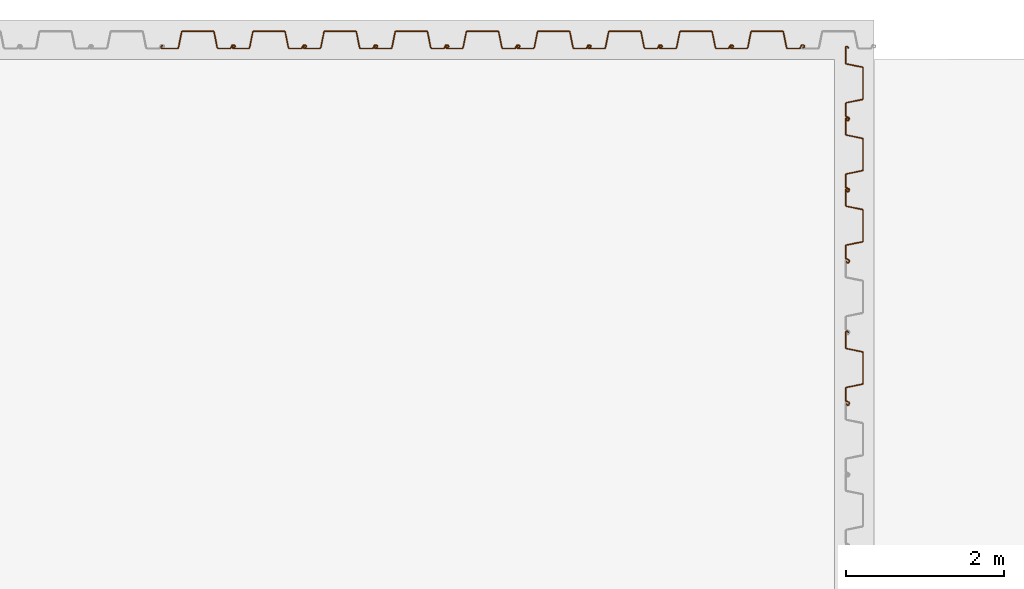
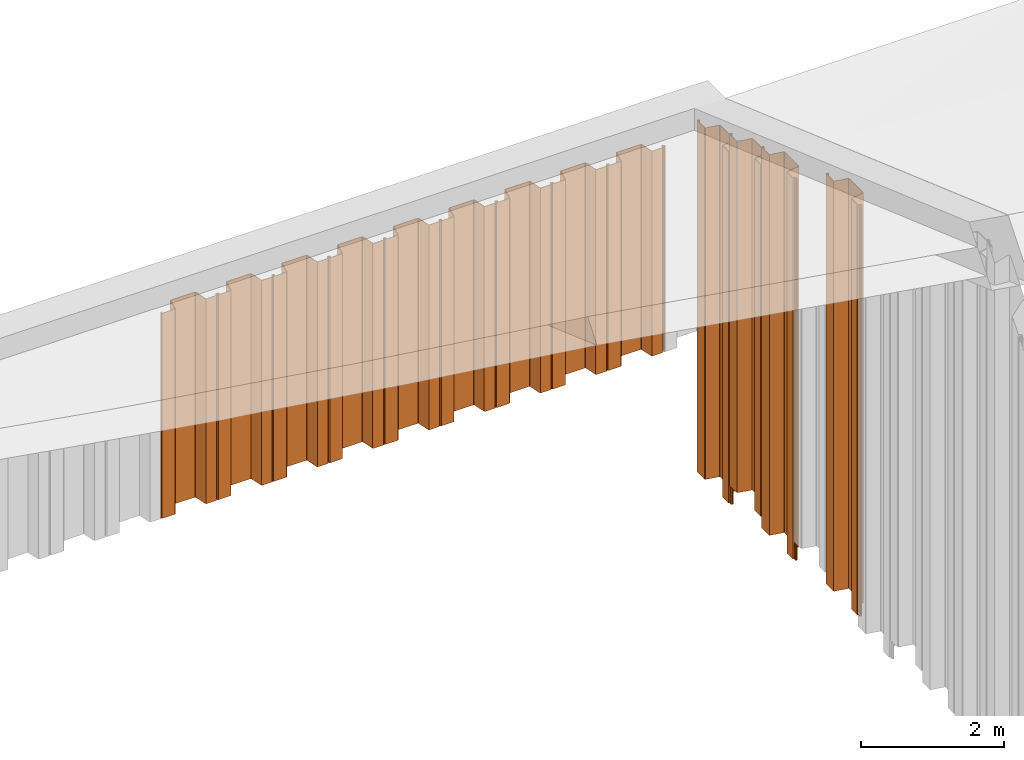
# One storey, part 31 of 32: 13 proxies.
"""IFC2X3 building model written with IfcOpenShell, lengths in millimetres."""

import ifcopenshell
import ifcopenshell.guid

model = None  # the IFC model being written
_history = None  # IfcOwnerHistory: only IFC2X3 demands one
_inside = {}  # id of a spatial element -> (the spatial element, [elements in it])
_under = {}  # id of a project, library or spatial element -> (it, [spatial elements below it])
_declared = {}  # id of a project -> (the project, [libraries it declares])
_typed = {}  # id of a type object -> (the type object, [elements of that type])
_made_of = {}  # id of a material, layer set ... -> (it, [elements and type objects made of it])


def new_model(schema):
    """Start an empty IFC model of exactly this schema.

    Asked for "IFC4X3", IfcOpenShell would pick the latest addendum, in which some entities
    have other attributes; the version numbers below select the first issue.
    IFC2X3 requires an IfcOwnerHistory on every rooted entity: one is made here for all.
    """
    global model, _history
    if schema == "IFC4X3":
        model = ifcopenshell.file(schema_version=(4, 3, 0, 0))
    else:
        model = ifcopenshell.file(schema=schema)
    _inside.clear()
    _under.clear()
    _declared.clear()
    _typed.clear()
    _made_of.clear()
    _history = None
    if model.schema == "IFC2X3":
        org = make("IfcOrganization", Name="unknown")
        user = make(
            "IfcPersonAndOrganization",
            ThePerson=make("IfcPerson", FamilyName="unknown"),
            TheOrganization=org,
        )
        app = make(
            "IfcApplication",
            ApplicationDeveloper=org,
            Version="unknown",
            ApplicationFullName="unknown",
            ApplicationIdentifier="unknown",
        )
        _history = make(
            "IfcOwnerHistory",
            OwningUser=user,
            OwningApplication=app,
            ChangeAction="ADDED",
            CreationDate=0,
        )
    return model


def make(cls, **values):
    """One entity of the class cls with the attributes given. An attribute that is None is left unset."""
    return model.create_entity(
        cls, **{name: value for name, value in values.items() if value is not None}
    )


def entity(cls, *values):
    """Any entity or typed value of the class cls, its attributes in the order of the schema. None: left unset."""
    e = model.create_entity(cls)
    for i, value in enumerate(values):
        if value is not None:
            e[i] = value
    return e


def rooted(cls, **values):
    """An entity with a GlobalId (a new one), such as an element, a storey or a relation."""
    return make(cls, GlobalId=ifcopenshell.guid.new(), OwnerHistory=_history, **values)


def si_unit(unit_type, name, prefix=None):
    """IfcSIUnit, for example si_unit("LENGTHUNIT", "METRE", prefix="MILLI")."""
    return make("IfcSIUnit", UnitType=unit_type, Prefix=prefix, Name=name)


def converted_unit(unit_type, name, factor, base, dimensions=None, offset=None):
    """IfcConversionBasedUnit, such as the inch: factor (a typed value) times the base unit."""
    return make(
        "IfcConversionBasedUnit"
        if offset is None
        else "IfcConversionBasedUnitWithOffset",
        ConversionOffset=offset,
        Dimensions=None
        if dimensions is None
        else entity("IfcDimensionalExponents", *dimensions),
        UnitType=unit_type,
        Name=name,
        ConversionFactor=make(
            "IfcMeasureWithUnit", ValueComponent=factor, UnitComponent=base
        ),
    )


def derived_unit(unit_type, elements):
    """IfcDerivedUnit: a product of units, each with its exponent."""
    return make(
        "IfcDerivedUnit",
        Elements=[
            make("IfcDerivedUnitElement", Unit=unit, Exponent=power)
            for unit, power in elements
        ],
        UnitType=unit_type,
    )


def assignment(units):
    """IfcUnitAssignment: the units of a project."""
    return None if units is None else make("IfcUnitAssignment", Units=units)


def point(xyz):
    """IfcCartesianPoint."""
    return None if xyz is None else make("IfcCartesianPoint", Coordinates=xyz)


def direction(xyz):
    """IfcDirection."""
    return None if xyz is None else make("IfcDirection", DirectionRatios=xyz)


def frame(location, z_axis=None, x_axis=None):
    """IfcAxis2Placement3D, a coordinate frame: its origin and axes. An axis left out is left unset."""
    return make(
        "IfcAxis2Placement3D",
        Location=point(location),
        Axis=direction(z_axis),
        RefDirection=direction(x_axis),
    )


def frame_2d(location, x_axis=None):
    """IfcAxis2Placement2D, a coordinate frame in the plane: its origin and x axis."""
    return make(
        "IfcAxis2Placement2D", Location=point(location), RefDirection=direction(x_axis)
    )


def origin():
    """The frame at (0, 0, 0) with its axes left unset."""
    return frame((0.0, 0.0, 0.0))


def place(relative_to, where):
    """IfcLocalPlacement: puts the frame where relative to a parent placement (None: the world)."""
    return make(
        "IfcLocalPlacement", PlacementRelTo=relative_to, RelativePlacement=where
    )


def context(
    kind, dimensions, precision=None, world=None, true_north=None, identifier=None
):
    """IfcGeometricRepresentationContext, for example the 3D "Model" context."""
    return make(
        "IfcGeometricRepresentationContext",
        ContextIdentifier=identifier,
        ContextType=kind,
        CoordinateSpaceDimension=dimensions,
        Precision=precision,
        WorldCoordinateSystem=world,
        TrueNorth=true_north,
    )


def subcontext(parent, identifier, kind, view, scale=None):
    """IfcGeometricRepresentationSubContext, for example "Body" below "Model"."""
    return make(
        "IfcGeometricRepresentationSubContext",
        ContextIdentifier=identifier,
        ContextType=kind,
        ParentContext=parent,
        TargetScale=scale,
        TargetView=view,
    )


def project(units=None, contexts=None):
    """IfcProject with its units and contexts."""
    return rooted(
        "IfcProject",
        Name="project",
        RepresentationContexts=contexts,
        UnitsInContext=assignment(units),
    )


def spatial(cls, under=None, at=None, **own):
    """A site, building, storey or space (cls), placed at a placement, below another one or the project."""
    s = rooted(cls, ObjectPlacement=at, **own)
    if under is not None:
        _under.setdefault(under.id(), (under, []))[1].append(s)
    return s


def polyline(points):
    """IfcPolyline through the points."""
    return make("IfcPolyline", Points=[point(p) for p in points])


def circle_curve(where, radius):
    """IfcCircle in the frame where."""
    return make("IfcCircle", Position=where, Radius=radius)


def parameter(value):
    """IfcParameterValue: where a trimmed curve begins or ends, as a parameter of its basis curve."""
    return model.create_entity("IfcParameterValue", value)


def trimmed(basis, trim1, trim2, sense, master):
    """IfcTrimmedCurve: the piece of a basis curve between two trims."""
    return make(
        "IfcTrimmedCurve",
        BasisCurve=basis,
        Trim1=trim1,
        Trim2=trim2,
        SenseAgreement=sense,
        MasterRepresentation=master,
    )


def segment(curve, same_sense, transition):
    """IfcCompositeCurveSegment."""
    return make(
        "IfcCompositeCurveSegment",
        Transition=transition,
        SameSense=same_sense,
        ParentCurve=curve,
    )


def composite_curve(segments, self_intersect=None):
    """IfcCompositeCurve: segments joined end to end."""
    return make("IfcCompositeCurve", Segments=segments, SelfIntersect=self_intersect)


def outline(outer, holes=None, kind="AREA"):
    """IfcArbitraryClosedProfileDef: a profile drawn as a closed curve; with holes, ...WithVoids."""
    if holes is None:
        return make("IfcArbitraryClosedProfileDef", ProfileType=kind, OuterCurve=outer)
    return make(
        "IfcArbitraryProfileDefWithVoids",
        ProfileType=kind,
        OuterCurve=outer,
        InnerCurves=holes,
    )


def extrude(swept, where, along, depth):
    """IfcExtrudedAreaSolid: the profile swept, set in the frame where, extruded along a direction by depth."""
    return make(
        "IfcExtrudedAreaSolid",
        SweptArea=swept,
        Position=where,
        ExtrudedDirection=direction(along),
        Depth=depth,
    )


def shape(context_of_items, identifier, shape_type, items):
    """IfcShapeRepresentation: the items that make up one representation, for example the "Body"."""
    return make(
        "IfcShapeRepresentation",
        ContextOfItems=context_of_items,
        RepresentationIdentifier=identifier,
        RepresentationType=shape_type,
        Items=items,
    )


def source(mapping_origin, context_of_items, identifier, shape_type, items):
    """IfcRepresentationMap: a shape defined once, which mapped items show again and again."""
    return make(
        "IfcRepresentationMap",
        MappingOrigin=mapping_origin,
        MappedRepresentation=shape(context_of_items, identifier, shape_type, items),
    )


def transform(
    local_origin,
    x_axis=None,
    y_axis=None,
    z_axis=None,
    scale=None,
    scale2=None,
    scale3=None,
    uniform=True,
):
    """IfcCartesianTransformationOperator3D, or its non-uniform kind. x_axis, y_axis, z_axis: its Axis1, 2, 3."""
    if uniform:
        return make(
            "IfcCartesianTransformationOperator3D",
            Axis1=direction(x_axis),
            Axis2=direction(y_axis),
            LocalOrigin=point(local_origin),
            Scale=scale,
            Axis3=direction(z_axis),
        )
    return make(
        "IfcCartesianTransformationOperator3DnonUniform",
        Axis1=direction(x_axis),
        Axis2=direction(y_axis),
        LocalOrigin=point(local_origin),
        Scale=scale,
        Axis3=direction(z_axis),
        Scale2=scale2,
        Scale3=scale3,
    )


def mapped(mapping_source, mapping_target):
    """IfcMappedItem: shows the shape of a source again, moved by a transform."""
    return make(
        "IfcMappedItem", MappingSource=mapping_source, MappingTarget=mapping_target
    )


def made_of(thing, what):
    """Note that an element or type object is made of a material, layer set ...; save() writes the relation."""
    if what is not None:
        _made_of.setdefault(what.id(), (what, []))[1].append(thing)
    return thing


def type_object(cls, material=None, **own):
    """A type object (cls), such as IfcWallType, which elements share."""
    return made_of(rooted(cls, **own), material)


def type_shapes(of_type, sources):
    """Give a type object the sources (RepresentationMaps) that its elements show as mapped items."""
    of_type.RepresentationMaps = sources


def element(
    cls,
    number,
    at=None,
    inside=None,
    cuts=None,
    type_object=None,
    material=None,
    context=None,
    identifier="Body",
    shape_type=None,
    held_by="IfcProductDefinitionShape",
    body=None,
    shapes=None,
    **own,
):
    """One element of the class cls, such as IfcWall. Its Tag is "e" and its number.

    at: its placement. inside: the storey or other place that contains it. cuts: it is an
    opening in that element (IfcRelVoidsElement). A single representation is given by context,
    identifier, shape_type and body (its items); several are given by shapes. held_by: the class
    of the entity that holds the representations. save() writes the other relations.
    """
    e = rooted(cls, Tag="e%d" % number, ObjectPlacement=at, **own)
    if body is not None:
        shapes = [shape(context, identifier, shape_type, body)]
    if shapes is not None:
        e.Representation = make(held_by, Representations=shapes)
    if inside is not None:
        _inside.setdefault(inside.id(), (inside, []))[1].append(e)
    if cuts is not None:
        rooted(
            "IfcRelVoidsElement", RelatingBuildingElement=cuts, RelatedOpeningElement=e
        )
    if type_object is not None:
        _typed.setdefault(type_object.id(), (type_object, []))[1].append(e)
    return made_of(e, material)


def aggregate(whole, parts):
    """IfcRelAggregates: a whole, such as a stair, and the parts it consists of."""
    return rooted("IfcRelAggregates", RelatingObject=whole, RelatedObjects=parts)


def save(model, path):
    """Write the relations noted so far, then the file.

    IfcRelAggregates (storeys below a building ...), IfcRelContainedInSpatialStructure (elements
    in a storey), IfcRelDefinesByType, IfcRelAssociatesMaterial and IfcRelDeclares: one each for
    every whole, place, type object, material and project.
    """
    for whole, parts in _under.values():
        aggregate(whole, parts)
    for where, things in _inside.values():
        rooted(
            "IfcRelContainedInSpatialStructure",
            RelatedElements=things,
            RelatingStructure=where,
        )
    for kind, things in _typed.values():
        rooted("IfcRelDefinesByType", RelatedObjects=things, RelatingType=kind)
    for what, things in _made_of.values():
        rooted("IfcRelAssociatesMaterial", RelatedObjects=things, RelatingMaterial=what)
    for by, libraries in _declared.values():
        rooted("IfcRelDeclares", RelatingContext=by, RelatedDefinitions=libraries)
    model.write(path)


model = new_model("IFC2X3")

# Units and contexts
model_context = context("Model", 3, precision=0.01, world=origin(), true_north=direction((6.12303176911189e-17, 1.0)))
body_context = subcontext(model_context, "Body", "Model", "MODEL_VIEW")
ifc_project = project(units=[si_unit("LENGTHUNIT", "METRE", prefix="MILLI"), si_unit("AREAUNIT", "SQUARE_METRE"), si_unit("VOLUMEUNIT", "CUBIC_METRE"), converted_unit("PLANEANGLEUNIT", "DEGREE", entity("IfcRatioMeasure", 0.0174532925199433), si_unit("PLANEANGLEUNIT", "RADIAN"), dimensions=[0, 0, 0, 0, 0, 0, 0]), si_unit("MASSUNIT", "GRAM", prefix="KILO"), derived_unit("MASSDENSITYUNIT", [(si_unit("MASSUNIT", "GRAM", prefix="KILO"), 1), (si_unit("LENGTHUNIT", "METRE"), -3)]), si_unit("TIMEUNIT", "SECOND"), si_unit("FREQUENCYUNIT", "HERTZ"), si_unit("THERMODYNAMICTEMPERATUREUNIT", "DEGREE_CELSIUS"), derived_unit("THERMALTRANSMITTANCEUNIT", [(si_unit("MASSUNIT", "GRAM", prefix="KILO"), 1), (si_unit("THERMODYNAMICTEMPERATUREUNIT", "KELVIN"), -1), (si_unit("TIMEUNIT", "SECOND"), -3)]), derived_unit("VOLUMETRICFLOWRATEUNIT", [(si_unit("LENGTHUNIT", "METRE"), 3), (si_unit("TIMEUNIT", "SECOND"), -1)]), si_unit("ELECTRICCURRENTUNIT", "AMPERE"), si_unit("ELECTRICVOLTAGEUNIT", "VOLT"), si_unit("POWERUNIT", "WATT"), si_unit("FORCEUNIT", "NEWTON", prefix="KILO"), si_unit("ILLUMINANCEUNIT", "LUX"), si_unit("LUMINOUSFLUXUNIT", "LUMEN"), si_unit("LUMINOUSINTENSITYUNIT", "CANDELA"), derived_unit("USERDEFINED", [(si_unit("MASSUNIT", "GRAM", prefix="KILO"), -1), (si_unit("LENGTHUNIT", "METRE"), -2), (si_unit("TIMEUNIT", "SECOND"), 3), (si_unit("LUMINOUSFLUXUNIT", "LUMEN"), 1)]), derived_unit("LINEARVELOCITYUNIT", [(si_unit("LENGTHUNIT", "METRE"), 1), (si_unit("TIMEUNIT", "SECOND"), -1)]), si_unit("PRESSUREUNIT", "PASCAL"), derived_unit("USERDEFINED", [(si_unit("LENGTHUNIT", "METRE"), -2), (si_unit("MASSUNIT", "GRAM", prefix="KILO"), 1), (si_unit("TIMEUNIT", "SECOND"), -2)])], contexts=[model_context])

# Site, building, storey
site_placement = place(None, origin())
site = spatial("IfcSite", under=ifc_project, at=site_placement, Name="Default", CompositionType="ELEMENT")
building_placement = place(site_placement, origin())
building = spatial("IfcBuilding", under=site, at=building_placement, CompositionType="ELEMENT")
storey_placement = place(building_placement, origin())
storey = spatial("IfcBuildingStorey", under=building, at=storey_placement, Name="矢板", CompositionType="ELEMENT", Elevation=0.0)

# Proxies
building_element_proxy_type_1 = type_object("IfcBuildingElementProxyType", Name="鋼矢板10H型", PredefinedType="NOTDEFINED")
shared_shape_1 = source(origin(), body_context, "Body", "SweptSolid", [
    extrude(outline(composite_curve([segment(trimmed(circle_curve(frame_2d((85.3662976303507, 306.644432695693), x_axis=(0.422618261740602, 0.906307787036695)), 13.885714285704), [parameter(24.9999999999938)], [parameter(90.0000000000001)], True, "PARAMETER"), True, "CONTINUOUS"), segment(polyline([(72.7815666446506, 312.512789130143), (9.8129512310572, 177.476157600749)]), True, "CONTINUOUS"), segment(trimmed(circle_curve(frame_2d((29.3891994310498, 168.347603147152), x_axis=(0.422618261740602, 0.906307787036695)), 21.6), [parameter(90.0000000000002)], [parameter(168.69006752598)], True, "PARAMETER"), True, "CONTINUOUS"), segment(polyline([(16.598697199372, 150.941769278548), (175.329723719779, 34.2998683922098)]), True, "CONTINUOUS"), segment(trimmed(circle_curve(frame_2d((168.93447260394, 25.596951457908), x_axis=(0.422618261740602, 0.906307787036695)), 10.7999999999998), [parameter(270.0)], [parameter(348.690067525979)], True, "PARAMETER"), False, "CONTINUOUS"), segment(polyline([(178.722596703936, 21.0326742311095), (18.2974003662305, -323.000269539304)]), True, "CONTINUOUS"), segment(trimmed(circle_curve(frame_2d((8.50927626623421, -318.435992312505), x_axis=(0.422618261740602, 0.906307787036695)), 10.8), [parameter(191.30993247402)], [parameter(269.999999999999)], True, "PARAMETER"), False, "CONTINUOUS"), segment(polyline([(5.95324328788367, -328.929166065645), (-185.429973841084, -282.310113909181)]), True, "CONTINUOUS"), segment(trimmed(circle_curve(frame_2d((-190.542039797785, -303.296461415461), x_axis=(0.422618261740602, 0.906307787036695)), 21.6000000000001), [parameter(11.3099324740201)], [parameter(90.0000000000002)], True, "PARAMETER"), True, "CONTINUOUS"), segment(polyline([(-210.118287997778, -294.167906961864), (-290.330886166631, -466.184378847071)]), True, "CONTINUOUS"), segment(trimmed(circle_curve(frame_2d((-270.754637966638, -475.312933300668), x_axis=(0.422618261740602, 0.906307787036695)), 21.6), [parameter(90.0000000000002)], [parameter(269.999999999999)], True, "PARAMETER"), True, "CONTINUOUS"), segment(polyline([(-251.178389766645, -484.441487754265), (-249.065298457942, -479.909948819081)]), True, "CONTINUOUS"), segment(polyline([(-249.065298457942, -479.909948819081), (-258.853422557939, -475.345671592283)]), True, "CONTINUOUS"), segment(polyline([(-258.853422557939, -475.345671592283), (-260.966513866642, -479.877210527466)]), True, "CONTINUOUS"), segment(trimmed(circle_curve(frame_2d((-270.754637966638, -475.312933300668), x_axis=(0.422618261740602, 0.906307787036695)), 10.8), [parameter(90.0000000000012)], [parameter(270.0)], True, "PARAMETER"), False, "CONTINUOUS"), segment(polyline([(-280.542762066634, -470.748656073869), (-200.330163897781, -298.732184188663)]), True, "CONTINUOUS"), segment(trimmed(circle_curve(frame_2d((-190.542039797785, -303.296461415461), x_axis=(0.422618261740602, 0.906307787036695)), 10.8), [parameter(11.3099324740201)], [parameter(89.9999999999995)], True, "PARAMETER"), False, "CONTINUOUS"), segment(polyline([(-187.986006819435, -292.803287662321), (3.39721030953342, -339.422339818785)]), True, "CONTINUOUS"), segment(trimmed(circle_curve(frame_2d((8.50927626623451, -318.435992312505), x_axis=(0.422618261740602, 0.906307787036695)), 21.6), [parameter(191.30993247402)], [parameter(270.0)], True, "PARAMETER"), True, "CONTINUOUS"), segment(polyline([(28.0855244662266, -327.564546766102), (188.510720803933, 16.4683970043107)]), True, "CONTINUOUS"), segment(trimmed(circle_curve(frame_2d((168.93447260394, 25.5969514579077), x_axis=(0.422618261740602, 0.906307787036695)), 21.6), [parameter(270.0)], [parameter(348.69006752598)], True, "PARAMETER"), True, "CONTINUOUS"), segment(polyline([(181.724974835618, 43.0027853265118), (22.9939483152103, 159.644686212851)]), True, "CONTINUOUS"), segment(trimmed(circle_curve(frame_2d((29.3891994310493, 168.347603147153), x_axis=(0.422618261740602, 0.906307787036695)), 10.7999999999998), [parameter(89.9999999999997)], [parameter(168.690067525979)], True, "PARAMETER"), False, "CONTINUOUS"), segment(polyline([(19.6010753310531, 172.911880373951), (82.5696907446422, 307.948511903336)]), True, "CONTINUOUS"), segment(trimmed(circle_curve(frame_2d((85.3662976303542, 306.64443269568), x_axis=(0.422618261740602, 0.906307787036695)), 3.08571428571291), [parameter(25.0000000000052)], [parameter(90.0000000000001)], True, "PARAMETER"), False, "CONTINUOUS"), segment(polyline([(85.3662976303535, 309.730146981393), (122.220231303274, 309.730146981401)]), True, "CONTINUOUS"), segment(trimmed(circle_curve(frame_2d((122.220231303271, 323.615861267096), x_axis=(0.422618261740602, 0.906307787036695)), 13.8857142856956), [parameter(205.000000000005)], [parameter(270.0)], True, "PARAMETER"), True, "CONTINUOUS"), segment(polyline([(134.804962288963, 317.747504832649), (141.079261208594, 331.202782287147)]), True, "CONTINUOUS"), segment(trimmed(circle_curve(frame_2d((121.503013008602, 340.331336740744), x_axis=(0.422618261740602, 0.906307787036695)), 21.6), [parameter(270.0)], [parameter(90.0000000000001)], True, "PARAMETER"), True, "CONTINUOUS"), segment(polyline([(101.926764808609, 349.459891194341), (99.8136734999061, 344.928352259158)]), True, "CONTINUOUS"), segment(polyline([(99.8136734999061, 344.928352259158), (109.601797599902, 340.364075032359)]), True, "CONTINUOUS"), segment(polyline([(109.601797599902, 340.364075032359), (111.714888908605, 344.895613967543)]), True, "CONTINUOUS"), segment(trimmed(circle_curve(frame_2d((121.503013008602, 340.331336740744), x_axis=(0.422618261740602, 0.906307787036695)), 10.8), [parameter(270.0)], [parameter(89.9999999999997)], True, "PARAMETER"), False, "CONTINUOUS"), segment(polyline([(131.291137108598, 335.767059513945), (125.01683818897, 322.311782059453)]), True, "CONTINUOUS"), segment(trimmed(circle_curve(frame_2d((122.220231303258, 323.615861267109), x_axis=(0.422618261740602, 0.906307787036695)), 3.08571428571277), [parameter(204.999999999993)], [parameter(270.0)], True, "PARAMETER"), False, "CONTINUOUS"), segment(polyline([(122.220231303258, 320.530146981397), (85.3662976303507, 320.530146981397)]), True, "CONTINUOUS")], self_intersect=False)), frame((95.205667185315, -48.8888888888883, -3500.0), z_axis=(0.0, 0.0, -1.0), x_axis=(0.4226182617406, 0.906307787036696, 0.0)), (0.0, 0.0, -1.0), 3500.0),
])
type_shapes(building_element_proxy_type_1, [shared_shape_1])
for number, where in (
    (1, (147397.5, 28702.0, 7600.0)),
    (2, (146497.5, 28702.0, 7600.0)),
    (3, (145597.5, 28702.0, 7600.0)),
    (4, (144697.5, 28702.0, 7600.0)),
    (5, (143797.5, 28702.0, 7600.0)),
    (6, (142897.5, 28702.0, 7600.0)),
    (7, (141997.5, 28702.0, 7600.0)),
    (8, (141097.5, 28702.0, 7600.0)),
    (9, (140197.5, 28702.0, 7600.0)),
):
    element("IfcBuildingElementProxy", number, at=place(storey_placement, frame(where)), inside=storey, type_object=building_element_proxy_type_1, Name="鋼矢板10H型:鋼矢板10H型", ObjectType="鋼矢板10H型:鋼矢板10H型", context=body_context, shape_type="MappedRepresentation", body=[
        mapped(shared_shape_1, transform((0.0, 0.0, 0.0), scale=1.0)),
    ])
building_element_proxy_type_2 = type_object("IfcBuildingElementProxyType", Name="鋼矢板10H型", PredefinedType="NOTDEFINED")
shared_shape_2 = source(origin(), body_context, "Body", "SweptSolid", [
    extrude(outline(composite_curve([segment(trimmed(circle_curve(frame_2d((85.3662976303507, 306.644432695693), x_axis=(0.422618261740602, 0.906307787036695)), 13.885714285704), [parameter(24.9999999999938)], [parameter(90.0000000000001)], True, "PARAMETER"), True, "CONTINUOUS"), segment(polyline([(72.7815666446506, 312.512789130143), (9.8129512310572, 177.476157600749)]), True, "CONTINUOUS"), segment(trimmed(circle_curve(frame_2d((29.3891994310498, 168.347603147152), x_axis=(0.422618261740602, 0.906307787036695)), 21.6), [parameter(90.0000000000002)], [parameter(168.69006752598)], True, "PARAMETER"), True, "CONTINUOUS"), segment(polyline([(16.598697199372, 150.941769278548), (175.329723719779, 34.2998683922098)]), True, "CONTINUOUS"), segment(trimmed(circle_curve(frame_2d((168.93447260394, 25.596951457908), x_axis=(0.422618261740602, 0.906307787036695)), 10.7999999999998), [parameter(270.0)], [parameter(348.690067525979)], True, "PARAMETER"), False, "CONTINUOUS"), segment(polyline([(178.722596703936, 21.0326742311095), (18.2974003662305, -323.000269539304)]), True, "CONTINUOUS"), segment(trimmed(circle_curve(frame_2d((8.50927626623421, -318.435992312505), x_axis=(0.422618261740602, 0.906307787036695)), 10.8), [parameter(191.30993247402)], [parameter(269.999999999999)], True, "PARAMETER"), False, "CONTINUOUS"), segment(polyline([(5.95324328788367, -328.929166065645), (-185.429973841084, -282.310113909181)]), True, "CONTINUOUS"), segment(trimmed(circle_curve(frame_2d((-190.542039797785, -303.296461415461), x_axis=(0.422618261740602, 0.906307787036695)), 21.6000000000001), [parameter(11.3099324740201)], [parameter(90.0000000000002)], True, "PARAMETER"), True, "CONTINUOUS"), segment(polyline([(-210.118287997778, -294.167906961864), (-290.330886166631, -466.184378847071)]), True, "CONTINUOUS"), segment(trimmed(circle_curve(frame_2d((-270.754637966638, -475.312933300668), x_axis=(0.422618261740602, 0.906307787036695)), 21.6), [parameter(90.0000000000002)], [parameter(269.999999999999)], True, "PARAMETER"), True, "CONTINUOUS"), segment(polyline([(-251.178389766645, -484.441487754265), (-249.065298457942, -479.909948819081)]), True, "CONTINUOUS"), segment(polyline([(-249.065298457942, -479.909948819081), (-258.853422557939, -475.345671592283)]), True, "CONTINUOUS"), segment(polyline([(-258.853422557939, -475.345671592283), (-260.966513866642, -479.877210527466)]), True, "CONTINUOUS"), segment(trimmed(circle_curve(frame_2d((-270.754637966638, -475.312933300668), x_axis=(0.422618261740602, 0.906307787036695)), 10.8), [parameter(90.0000000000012)], [parameter(270.0)], True, "PARAMETER"), False, "CONTINUOUS"), segment(polyline([(-280.542762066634, -470.748656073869), (-200.330163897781, -298.732184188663)]), True, "CONTINUOUS"), segment(trimmed(circle_curve(frame_2d((-190.542039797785, -303.296461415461), x_axis=(0.422618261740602, 0.906307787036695)), 10.8), [parameter(11.3099324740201)], [parameter(89.9999999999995)], True, "PARAMETER"), False, "CONTINUOUS"), segment(polyline([(-187.986006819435, -292.803287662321), (3.39721030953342, -339.422339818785)]), True, "CONTINUOUS"), segment(trimmed(circle_curve(frame_2d((8.50927626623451, -318.435992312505), x_axis=(0.422618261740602, 0.906307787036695)), 21.6), [parameter(191.30993247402)], [parameter(270.0)], True, "PARAMETER"), True, "CONTINUOUS"), segment(polyline([(28.0855244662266, -327.564546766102), (188.510720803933, 16.4683970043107)]), True, "CONTINUOUS"), segment(trimmed(circle_curve(frame_2d((168.93447260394, 25.5969514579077), x_axis=(0.422618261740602, 0.906307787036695)), 21.6), [parameter(270.0)], [parameter(348.69006752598)], True, "PARAMETER"), True, "CONTINUOUS"), segment(polyline([(181.724974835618, 43.0027853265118), (22.9939483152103, 159.644686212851)]), True, "CONTINUOUS"), segment(trimmed(circle_curve(frame_2d((29.3891994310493, 168.347603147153), x_axis=(0.422618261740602, 0.906307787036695)), 10.7999999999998), [parameter(89.9999999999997)], [parameter(168.690067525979)], True, "PARAMETER"), False, "CONTINUOUS"), segment(polyline([(19.6010753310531, 172.911880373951), (82.5696907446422, 307.948511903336)]), True, "CONTINUOUS"), segment(trimmed(circle_curve(frame_2d((85.3662976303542, 306.64443269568), x_axis=(0.422618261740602, 0.906307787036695)), 3.08571428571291), [parameter(25.0000000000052)], [parameter(90.0000000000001)], True, "PARAMETER"), False, "CONTINUOUS"), segment(polyline([(85.3662976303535, 309.730146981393), (122.220231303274, 309.730146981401)]), True, "CONTINUOUS"), segment(trimmed(circle_curve(frame_2d((122.220231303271, 323.615861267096), x_axis=(0.422618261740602, 0.906307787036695)), 13.8857142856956), [parameter(205.000000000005)], [parameter(270.0)], True, "PARAMETER"), True, "CONTINUOUS"), segment(polyline([(134.804962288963, 317.747504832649), (141.079261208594, 331.202782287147)]), True, "CONTINUOUS"), segment(trimmed(circle_curve(frame_2d((121.503013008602, 340.331336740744), x_axis=(0.422618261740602, 0.906307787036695)), 21.6), [parameter(270.0)], [parameter(90.0000000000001)], True, "PARAMETER"), True, "CONTINUOUS"), segment(polyline([(101.926764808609, 349.459891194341), (99.8136734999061, 344.928352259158)]), True, "CONTINUOUS"), segment(polyline([(99.8136734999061, 344.928352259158), (109.601797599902, 340.364075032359)]), True, "CONTINUOUS"), segment(polyline([(109.601797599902, 340.364075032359), (111.714888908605, 344.895613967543)]), True, "CONTINUOUS"), segment(trimmed(circle_curve(frame_2d((121.503013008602, 340.331336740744), x_axis=(0.422618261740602, 0.906307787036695)), 10.8), [parameter(270.0)], [parameter(89.9999999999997)], True, "PARAMETER"), False, "CONTINUOUS"), segment(polyline([(131.291137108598, 335.767059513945), (125.01683818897, 322.311782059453)]), True, "CONTINUOUS"), segment(trimmed(circle_curve(frame_2d((122.220231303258, 323.615861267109), x_axis=(0.422618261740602, 0.906307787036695)), 3.08571428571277), [parameter(204.999999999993)], [parameter(270.0)], True, "PARAMETER"), False, "CONTINUOUS"), segment(polyline([(122.220231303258, 320.530146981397), (85.3662976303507, 320.530146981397)]), True, "CONTINUOUS")], self_intersect=False)), frame((95.205667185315, -48.8888888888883, -6000.0), z_axis=(0.0, 0.0, -1.0), x_axis=(0.4226182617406, 0.906307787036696, 0.0)), (0.0, 0.0, -1.0), 6000.0),
])
type_shapes(building_element_proxy_type_2, [shared_shape_2])
for number, where, z_axis, x_axis in (
    (10, (148500.0, 28151.0, 7852.0), (0.0, 0.0, 1.0), (0.0, -1.0, 0.0)),
    (11, (148500.0, 27251.0, 8170.0), (0.0, 0.0, 1.0), (0.0, -1.0, 0.0)),
):
    element("IfcBuildingElementProxy", number, at=place(storey_placement, frame(where, z_axis=z_axis, x_axis=x_axis)), inside=storey, type_object=building_element_proxy_type_2, Name="鋼矢板10H型:鋼矢板10H型", ObjectType="鋼矢板10H型:鋼矢板10H型", context=body_context, shape_type="MappedRepresentation", body=[
        mapped(shared_shape_2, transform((0.0, 0.0, 0.0), scale=1.0)),
    ])
building_element_proxy_type_3 = type_object("IfcBuildingElementProxyType", Name="鋼矢板10H型", PredefinedType="NOTDEFINED")
shared_shape_3 = source(origin(), body_context, "Body", "SweptSolid", [
    extrude(outline(composite_curve([segment(trimmed(circle_curve(frame_2d((85.3662976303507, 306.644432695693), x_axis=(0.422618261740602, 0.906307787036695)), 13.885714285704), [parameter(24.9999999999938)], [parameter(90.0000000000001)], True, "PARAMETER"), True, "CONTINUOUS"), segment(polyline([(72.7815666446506, 312.512789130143), (9.8129512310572, 177.476157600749)]), True, "CONTINUOUS"), segment(trimmed(circle_curve(frame_2d((29.3891994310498, 168.347603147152), x_axis=(0.422618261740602, 0.906307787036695)), 21.6), [parameter(90.0000000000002)], [parameter(168.69006752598)], True, "PARAMETER"), True, "CONTINUOUS"), segment(polyline([(16.598697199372, 150.941769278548), (175.329723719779, 34.2998683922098)]), True, "CONTINUOUS"), segment(trimmed(circle_curve(frame_2d((168.93447260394, 25.596951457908), x_axis=(0.422618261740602, 0.906307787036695)), 10.7999999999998), [parameter(270.0)], [parameter(348.690067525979)], True, "PARAMETER"), False, "CONTINUOUS"), segment(polyline([(178.722596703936, 21.0326742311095), (18.2974003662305, -323.000269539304)]), True, "CONTINUOUS"), segment(trimmed(circle_curve(frame_2d((8.50927626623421, -318.435992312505), x_axis=(0.422618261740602, 0.906307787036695)), 10.8), [parameter(191.30993247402)], [parameter(269.999999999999)], True, "PARAMETER"), False, "CONTINUOUS"), segment(polyline([(5.95324328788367, -328.929166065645), (-185.429973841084, -282.310113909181)]), True, "CONTINUOUS"), segment(trimmed(circle_curve(frame_2d((-190.542039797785, -303.296461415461), x_axis=(0.422618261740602, 0.906307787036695)), 21.6000000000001), [parameter(11.3099324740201)], [parameter(90.0000000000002)], True, "PARAMETER"), True, "CONTINUOUS"), segment(polyline([(-210.118287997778, -294.167906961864), (-290.330886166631, -466.184378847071)]), True, "CONTINUOUS"), segment(trimmed(circle_curve(frame_2d((-270.754637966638, -475.312933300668), x_axis=(0.422618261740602, 0.906307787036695)), 21.6), [parameter(90.0000000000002)], [parameter(269.999999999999)], True, "PARAMETER"), True, "CONTINUOUS"), segment(polyline([(-251.178389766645, -484.441487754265), (-249.065298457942, -479.909948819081)]), True, "CONTINUOUS"), segment(polyline([(-249.065298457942, -479.909948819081), (-258.853422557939, -475.345671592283)]), True, "CONTINUOUS"), segment(polyline([(-258.853422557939, -475.345671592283), (-260.966513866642, -479.877210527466)]), True, "CONTINUOUS"), segment(trimmed(circle_curve(frame_2d((-270.754637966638, -475.312933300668), x_axis=(0.422618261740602, 0.906307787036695)), 10.8), [parameter(90.0000000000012)], [parameter(270.0)], True, "PARAMETER"), False, "CONTINUOUS"), segment(polyline([(-280.542762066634, -470.748656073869), (-200.330163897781, -298.732184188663)]), True, "CONTINUOUS"), segment(trimmed(circle_curve(frame_2d((-190.542039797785, -303.296461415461), x_axis=(0.422618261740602, 0.906307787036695)), 10.8), [parameter(11.3099324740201)], [parameter(89.9999999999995)], True, "PARAMETER"), False, "CONTINUOUS"), segment(polyline([(-187.986006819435, -292.803287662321), (3.39721030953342, -339.422339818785)]), True, "CONTINUOUS"), segment(trimmed(circle_curve(frame_2d((8.50927626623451, -318.435992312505), x_axis=(0.422618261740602, 0.906307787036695)), 21.6), [parameter(191.30993247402)], [parameter(270.0)], True, "PARAMETER"), True, "CONTINUOUS"), segment(polyline([(28.0855244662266, -327.564546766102), (188.510720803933, 16.4683970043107)]), True, "CONTINUOUS"), segment(trimmed(circle_curve(frame_2d((168.93447260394, 25.5969514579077), x_axis=(0.422618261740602, 0.906307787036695)), 21.6), [parameter(270.0)], [parameter(348.69006752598)], True, "PARAMETER"), True, "CONTINUOUS"), segment(polyline([(181.724974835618, 43.0027853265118), (22.9939483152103, 159.644686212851)]), True, "CONTINUOUS"), segment(trimmed(circle_curve(frame_2d((29.3891994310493, 168.347603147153), x_axis=(0.422618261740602, 0.906307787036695)), 10.7999999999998), [parameter(89.9999999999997)], [parameter(168.690067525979)], True, "PARAMETER"), False, "CONTINUOUS"), segment(polyline([(19.6010753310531, 172.911880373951), (82.5696907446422, 307.948511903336)]), True, "CONTINUOUS"), segment(trimmed(circle_curve(frame_2d((85.3662976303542, 306.64443269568), x_axis=(0.422618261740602, 0.906307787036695)), 3.08571428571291), [parameter(25.0000000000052)], [parameter(90.0000000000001)], True, "PARAMETER"), False, "CONTINUOUS"), segment(polyline([(85.3662976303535, 309.730146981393), (122.220231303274, 309.730146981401)]), True, "CONTINUOUS"), segment(trimmed(circle_curve(frame_2d((122.220231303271, 323.615861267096), x_axis=(0.422618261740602, 0.906307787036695)), 13.8857142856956), [parameter(205.000000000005)], [parameter(270.0)], True, "PARAMETER"), True, "CONTINUOUS"), segment(polyline([(134.804962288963, 317.747504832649), (141.079261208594, 331.202782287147)]), True, "CONTINUOUS"), segment(trimmed(circle_curve(frame_2d((121.503013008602, 340.331336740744), x_axis=(0.422618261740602, 0.906307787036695)), 21.6), [parameter(270.0)], [parameter(90.0000000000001)], True, "PARAMETER"), True, "CONTINUOUS"), segment(polyline([(101.926764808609, 349.459891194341), (99.8136734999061, 344.928352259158)]), True, "CONTINUOUS"), segment(polyline([(99.8136734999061, 344.928352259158), (109.601797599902, 340.364075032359)]), True, "CONTINUOUS"), segment(polyline([(109.601797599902, 340.364075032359), (111.714888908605, 344.895613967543)]), True, "CONTINUOUS"), segment(trimmed(circle_curve(frame_2d((121.503013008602, 340.331336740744), x_axis=(0.422618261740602, 0.906307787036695)), 10.8), [parameter(270.0)], [parameter(89.9999999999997)], True, "PARAMETER"), False, "CONTINUOUS"), segment(polyline([(131.291137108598, 335.767059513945), (125.01683818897, 322.311782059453)]), True, "CONTINUOUS"), segment(trimmed(circle_curve(frame_2d((122.220231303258, 323.615861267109), x_axis=(0.422618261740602, 0.906307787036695)), 3.08571428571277), [parameter(204.999999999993)], [parameter(270.0)], True, "PARAMETER"), False, "CONTINUOUS"), segment(polyline([(122.220231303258, 320.530146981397), (85.3662976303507, 320.530146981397)]), True, "CONTINUOUS")], self_intersect=False)), frame((95.205667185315, -48.8888888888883, -6500.0), z_axis=(0.0, 0.0, -1.0), x_axis=(0.4226182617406, 0.906307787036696, 0.0)), (0.0, 0.0, -1.0), 6500.0),
])
type_shapes(building_element_proxy_type_3, [shared_shape_3])
proxy_1_placement = place(storey_placement, frame((148500.0, 26351.0, 8489.0), z_axis=(0.0, 0.0, 1.0), x_axis=(0.0, -1.0, 0.0)))
element("IfcBuildingElementProxy", 12, at=proxy_1_placement, inside=storey, type_object=building_element_proxy_type_3, Name="鋼矢板10H型:鋼矢板10H型", ObjectType="鋼矢板10H型:鋼矢板10H型", context=body_context, shape_type="MappedRepresentation", body=[
    mapped(shared_shape_3, transform((0.0, 0.0, 0.0), scale=1.0)),
])
building_element_proxy_type_4 = type_object("IfcBuildingElementProxyType", Name="鋼矢板10H型", PredefinedType="NOTDEFINED")
shared_shape_4 = source(origin(), body_context, "Body", "SweptSolid", [
    extrude(outline(composite_curve([segment(trimmed(circle_curve(frame_2d((85.3662976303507, 306.644432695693), x_axis=(0.422618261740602, 0.906307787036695)), 13.885714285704), [parameter(24.9999999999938)], [parameter(90.0000000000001)], True, "PARAMETER"), True, "CONTINUOUS"), segment(polyline([(72.7815666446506, 312.512789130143), (9.8129512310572, 177.476157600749)]), True, "CONTINUOUS"), segment(trimmed(circle_curve(frame_2d((29.3891994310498, 168.347603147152), x_axis=(0.422618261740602, 0.906307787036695)), 21.6), [parameter(90.0000000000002)], [parameter(168.69006752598)], True, "PARAMETER"), True, "CONTINUOUS"), segment(polyline([(16.598697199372, 150.941769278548), (175.329723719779, 34.2998683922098)]), True, "CONTINUOUS"), segment(trimmed(circle_curve(frame_2d((168.93447260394, 25.596951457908), x_axis=(0.422618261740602, 0.906307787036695)), 10.7999999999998), [parameter(270.0)], [parameter(348.690067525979)], True, "PARAMETER"), False, "CONTINUOUS"), segment(polyline([(178.722596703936, 21.0326742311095), (18.2974003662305, -323.000269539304)]), True, "CONTINUOUS"), segment(trimmed(circle_curve(frame_2d((8.50927626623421, -318.435992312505), x_axis=(0.422618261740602, 0.906307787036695)), 10.8), [parameter(191.30993247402)], [parameter(269.999999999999)], True, "PARAMETER"), False, "CONTINUOUS"), segment(polyline([(5.95324328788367, -328.929166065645), (-185.429973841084, -282.310113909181)]), True, "CONTINUOUS"), segment(trimmed(circle_curve(frame_2d((-190.542039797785, -303.296461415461), x_axis=(0.422618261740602, 0.906307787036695)), 21.6000000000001), [parameter(11.3099324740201)], [parameter(90.0000000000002)], True, "PARAMETER"), True, "CONTINUOUS"), segment(polyline([(-210.118287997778, -294.167906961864), (-290.330886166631, -466.184378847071)]), True, "CONTINUOUS"), segment(trimmed(circle_curve(frame_2d((-270.754637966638, -475.312933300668), x_axis=(0.422618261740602, 0.906307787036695)), 21.6), [parameter(90.0000000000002)], [parameter(269.999999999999)], True, "PARAMETER"), True, "CONTINUOUS"), segment(polyline([(-251.178389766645, -484.441487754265), (-249.065298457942, -479.909948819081)]), True, "CONTINUOUS"), segment(polyline([(-249.065298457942, -479.909948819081), (-258.853422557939, -475.345671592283)]), True, "CONTINUOUS"), segment(polyline([(-258.853422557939, -475.345671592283), (-260.966513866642, -479.877210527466)]), True, "CONTINUOUS"), segment(trimmed(circle_curve(frame_2d((-270.754637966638, -475.312933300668), x_axis=(0.422618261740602, 0.906307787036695)), 10.8), [parameter(90.0000000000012)], [parameter(270.0)], True, "PARAMETER"), False, "CONTINUOUS"), segment(polyline([(-280.542762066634, -470.748656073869), (-200.330163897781, -298.732184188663)]), True, "CONTINUOUS"), segment(trimmed(circle_curve(frame_2d((-190.542039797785, -303.296461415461), x_axis=(0.422618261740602, 0.906307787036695)), 10.8), [parameter(11.3099324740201)], [parameter(89.9999999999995)], True, "PARAMETER"), False, "CONTINUOUS"), segment(polyline([(-187.986006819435, -292.803287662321), (3.39721030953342, -339.422339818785)]), True, "CONTINUOUS"), segment(trimmed(circle_curve(frame_2d((8.50927626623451, -318.435992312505), x_axis=(0.422618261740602, 0.906307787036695)), 21.6), [parameter(191.30993247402)], [parameter(270.0)], True, "PARAMETER"), True, "CONTINUOUS"), segment(polyline([(28.0855244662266, -327.564546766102), (188.510720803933, 16.4683970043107)]), True, "CONTINUOUS"), segment(trimmed(circle_curve(frame_2d((168.93447260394, 25.5969514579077), x_axis=(0.422618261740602, 0.906307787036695)), 21.6), [parameter(270.0)], [parameter(348.69006752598)], True, "PARAMETER"), True, "CONTINUOUS"), segment(polyline([(181.724974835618, 43.0027853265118), (22.9939483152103, 159.644686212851)]), True, "CONTINUOUS"), segment(trimmed(circle_curve(frame_2d((29.3891994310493, 168.347603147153), x_axis=(0.422618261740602, 0.906307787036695)), 10.7999999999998), [parameter(89.9999999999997)], [parameter(168.690067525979)], True, "PARAMETER"), False, "CONTINUOUS"), segment(polyline([(19.6010753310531, 172.911880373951), (82.5696907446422, 307.948511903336)]), True, "CONTINUOUS"), segment(trimmed(circle_curve(frame_2d((85.3662976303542, 306.64443269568), x_axis=(0.422618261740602, 0.906307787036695)), 3.08571428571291), [parameter(25.0000000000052)], [parameter(90.0000000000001)], True, "PARAMETER"), False, "CONTINUOUS"), segment(polyline([(85.3662976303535, 309.730146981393), (122.220231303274, 309.730146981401)]), True, "CONTINUOUS"), segment(trimmed(circle_curve(frame_2d((122.220231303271, 323.615861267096), x_axis=(0.422618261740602, 0.906307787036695)), 13.8857142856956), [parameter(205.000000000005)], [parameter(270.0)], True, "PARAMETER"), True, "CONTINUOUS"), segment(polyline([(134.804962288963, 317.747504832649), (141.079261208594, 331.202782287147)]), True, "CONTINUOUS"), segment(trimmed(circle_curve(frame_2d((121.503013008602, 340.331336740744), x_axis=(0.422618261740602, 0.906307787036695)), 21.6), [parameter(270.0)], [parameter(90.0000000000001)], True, "PARAMETER"), True, "CONTINUOUS"), segment(polyline([(101.926764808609, 349.459891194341), (99.8136734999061, 344.928352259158)]), True, "CONTINUOUS"), segment(polyline([(99.8136734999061, 344.928352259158), (109.601797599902, 340.364075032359)]), True, "CONTINUOUS"), segment(polyline([(109.601797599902, 340.364075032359), (111.714888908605, 344.895613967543)]), True, "CONTINUOUS"), segment(trimmed(circle_curve(frame_2d((121.503013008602, 340.331336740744), x_axis=(0.422618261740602, 0.906307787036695)), 10.8), [parameter(270.0)], [parameter(89.9999999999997)], True, "PARAMETER"), False, "CONTINUOUS"), segment(polyline([(131.291137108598, 335.767059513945), (125.01683818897, 322.311782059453)]), True, "CONTINUOUS"), segment(trimmed(circle_curve(frame_2d((122.220231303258, 323.615861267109), x_axis=(0.422618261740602, 0.906307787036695)), 3.08571428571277), [parameter(204.999999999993)], [parameter(270.0)], True, "PARAMETER"), False, "CONTINUOUS"), segment(polyline([(122.220231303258, 320.530146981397), (85.3662976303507, 320.530146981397)]), True, "CONTINUOUS")], self_intersect=False)), frame((95.205667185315, -48.8888888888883, -7000.0), z_axis=(0.0, 0.0, -1.0), x_axis=(0.4226182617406, 0.906307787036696, 0.0)), (0.0, 0.0, -1.0), 7000.0),
])
type_shapes(building_element_proxy_type_4, [shared_shape_4])
proxy_2_placement = place(storey_placement, frame((148500.0, 24551.0, 9126.0), z_axis=(0.0, 0.0, 1.0), x_axis=(0.0, -1.0, 0.0)))
element("IfcBuildingElementProxy", 13, at=proxy_2_placement, inside=storey, type_object=building_element_proxy_type_4, Name="鋼矢板10H型:鋼矢板10H型", ObjectType="鋼矢板10H型:鋼矢板10H型", context=body_context, shape_type="MappedRepresentation", body=[
    mapped(shared_shape_4, transform((0.0, 0.0, 0.0), scale=1.0)),
])

save(model, "model.ifc")
